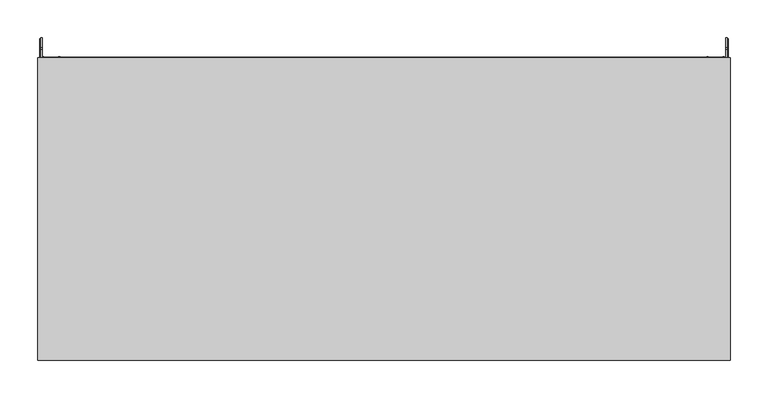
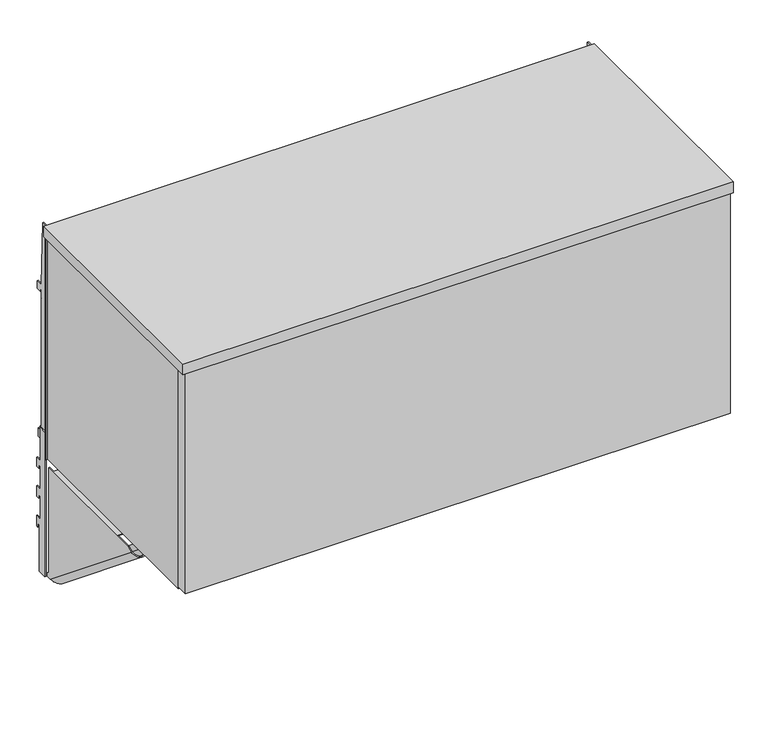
"""IFC4 building model written with IfcOpenShell, lengths in millimetres: furniture geometry, Steelcase - Universal Storage - In the Case Bin - Flat Front : For Montage - 36W."""

from ifc_helpers import new_model, si_unit, point, frame, frame_2d, origin, place, context, project, spatial, polyline, circle_curve, ellipse_curve, trimmed, segment, composite_curve, outline, extrude, faceted_brep, source, transform, mapped, element, save
from ifc_brep_helpers import plane_surface, cylinder_surface, revolved_surface, advanced_brep


def furniture_9f274bf5(model_context):
    return source(origin(), model_context, "Body", "SolidModel", [
        extrude(outline(polyline([(14.7026351, 1295.4127), (14.7026351, 1236.5862384), (24.9864881, 1236.5862384), (24.9864881, 1220.7113353), (18.8396885, 1220.7113353), (18.8396885, 1227.061311), (14.7756879, 1227.061311), (14.7756879, 1186.6498969), (24.9864881, 1186.6498969), (24.9864881, 1168.3872762), (18.8396885, 1168.3872762), (18.8396885, 1174.7373246), (14.7756879, 1174.7373246), (14.7756879, 1134.3259105), (24.9864881, 1134.3259105), (24.9864881, 1116.0632897), (21.4050888, 1116.0632897), (21.4050888, 1122.4132655), (17.3410881, 1122.4132655), (17.3410881, 1040.9809), (1.1327479, 1040.9809), (1.1327479, 1295.4127), (14.7026351, 1295.4127)])), frame((2.1844, 0.0, 0.0), z_axis=(1.0, 0.0, 0.0), x_axis=(0.0, 1.0, 0.0)), (0.0, 0.0, 1.0), 1.905),
        extrude(outline(polyline([(14.7026351, 1295.4127), (14.7026351, 1236.5862384), (24.9864881, 1236.5862384), (24.9864881, 1220.7113353), (18.8396885, 1220.7113353), (18.8396885, 1227.061311), (14.7756879, 1227.061311), (14.7756879, 1186.6498969), (24.9864881, 1186.6498969), (24.9864881, 1168.3872762), (18.8396885, 1168.3872762), (18.8396885, 1174.7373246), (14.7756879, 1174.7373246), (14.7756879, 1134.3259105), (24.9864881, 1134.3259105), (24.9864881, 1116.0632897), (21.4050888, 1116.0632897), (21.4050888, 1122.4132655), (17.3410881, 1122.4132655), (17.3410881, 1040.9809), (1.1327479, 1040.9809), (1.1327479, 1295.4127), (14.7026351, 1295.4127)])), frame((910.3106, 0.0, 0.0), z_axis=(1.0, 0.0, 0.0), x_axis=(0.0, 1.0, 0.0)), (0.0, 0.0, 1.0), 1.905),
        advanced_brep(
        [(885.3424, -230.0833372, 1233.8431), (885.3424, 1.1327479, 1046.6079738), (883.2342, 1.1327479, 1046.6079738), (883.2342, -230.0833372, 1233.8431), (883.2342, 1.1327479, 1040.9809), (883.2342, -7.7654502, 1040.9809), (883.2342, -240.6555763, 1229.5716381), (906.5006, -7.7654502, 1040.9809), (906.5006, -240.6555763, 1229.5716381), (906.5006, 1.1327479, 1040.9809), (906.5006, 1.1327479, 1046.6079738), (906.5006, -3.080512, 1050.019805), (906.5006, -3.080512, 1233.8431), (906.5006, -230.0833372, 1233.8431), (904.3924009, 1.1327479, 1046.6079738), (904.3924009, -3.080512, 1050.019805), (904.3924009, -7.7654502, 1040.9809), (904.3924009, -240.6555763, 1229.5716381), (904.3924009, -230.0833372, 1233.8431), (904.3924009, -200.311512, 1233.8431), (904.3924009, -200.311512, 1233.0049163), (904.3924009, -14.0787123, 1233.0049163), (904.3924009, -14.0787123, 1233.8431), (904.3924009, -3.080512, 1233.8431), (904.3924009, 1.1327479, 1040.9809), (885.3424, -7.7654502, 1040.9809), (885.3424, -240.6555763, 1229.5716381), (885.3424, 1.1327479, 1040.9809), (875.4617978, -200.311512, 1233.8431), (875.4617978, -200.311512, 1252.2581016), (874.6236, -200.311512, 1252.2581016), (874.6236, -200.311512, 1233.0049163), (874.6236, -82.5825138, 1252.2581016), (875.4617978, -82.5825138, 1252.2581016), (875.4617978, -82.5825138, 1233.8431), (874.6236, -82.5825138, 1233.8431), (874.6236, -14.0787123, 1233.8431), (874.6236, -14.0787123, 1233.0049163)],
        [
            (0, 1),
            (1, 2),
            (2, 3),
            (3, 0),
            (2, 4),
            (4, 5),
            (5, 6),
            (6, 3),
            (5, 7, ellipse_curve(frame((894.8674, -7.7654502, 1040.9809), z_axis=(0.0, 0.0, 1.0), x_axis=(0.0, -1.0, 0.0)), 18.4853359, 11.6332)),
            (7, 8),
            (8, 6, ellipse_curve(frame((894.8674, -240.6555763, 1229.5716381), z_axis=(0.0, 0.374606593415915, -0.9271838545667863), x_axis=(0.0, -0.9271838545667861, -0.3746065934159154)), 13.3008659, 11.6332)),
            (7, 9),
            (9, 10),
            (10, 11),
            (11, 12),
            (12, 13),
            (13, 8),
            (10, 14),
            (14, 15),
            (15, 11),
            (16, 17),
            (17, 18),
            (18, 19),
            (19, 20),
            (20, 21),
            (21, 22),
            (22, 23),
            (23, 15),
            (14, 24),
            (24, 16),
            (16, 25, ellipse_curve(frame((894.8674005, -7.7654502, 1040.9809), z_axis=(0.0, 0.0, -1.0), x_axis=(0.0, 1.0, 0.0)), 15.135374, 9.5250005)),
            (25, 26),
            (26, 17, ellipse_curve(frame((894.8674005, -240.6555763, 1229.5716381), z_axis=(0.0, -0.374606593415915, 0.9271838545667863), x_axis=(0.0, 0.9271838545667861, 0.3746065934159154)), 10.8904475, 9.5250005)),
            (0, 26),
            (25, 27),
            (27, 1),
            (13, 18),
            (24, 9),
            (4, 27),
            (28, 29),
            (29, 30),
            (30, 31),
            (31, 20),
            (19, 28),
            (32, 33),
            (33, 34),
            (34, 35),
            (35, 32),
            (35, 36),
            (36, 37),
            (37, 31),
            (30, 32),
            (28, 34),
            (33, 29),
            (36, 22),
            (21, 37),
            (12, 23),
        ],
        [
            plane_surface(frame((885.3424, -241.2702093, 1242.902052), z_axis=(0.0, 0.6293204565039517, 0.7771459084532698), x_axis=(0.0, 0.7771459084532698, -0.6293204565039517))),
            plane_surface(frame((883.2342, -241.2702093, 1242.902052), z_axis=(-1.0000000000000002, 0.0, 0.0), x_axis=(0.0, 0.7771459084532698, -0.6293204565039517))),
            cylinder_surface(frame((894.8674, 5.728998, 1030.0533094), z_axis=(0.0, -0.7771459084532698, 0.6293204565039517), x_axis=(0.0, 0.6293204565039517, 0.7771459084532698)), 11.6332),
            plane_surface(frame((906.5006, -247.5463438, 1235.1516726), z_axis=(1.0000000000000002, 0.0, 0.0), x_axis=(0.0, 0.7771459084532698, -0.6293204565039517))),
            plane_surface(frame((906.5006, -241.2702093, 1242.902052), z_axis=(0.0, 0.6293204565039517, 0.7771459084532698), x_axis=(0.0, 0.7771459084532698, -0.6293204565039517))),
            plane_surface(frame((904.3924009, -241.2702093, 1242.902052), z_axis=(-1.0000000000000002, 0.0, 0.0), x_axis=(0.0, 0.7771459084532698, -0.6293204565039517))),
            revolved_surface(polyline([(894.8674005, 7.3699238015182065, 1040.980900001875), (894.8674005, -238.76446812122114, 1240.2966349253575)]), (894.8674005, 5.728998, 1030.0533094), (0.0, 0.7771459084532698, -0.6293204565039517)),
            plane_surface(frame((885.3424, -247.5463438, 1235.1516726), z_axis=(1.0000000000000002, 0.0, 0.0), x_axis=(0.0, 0.7771459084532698, -0.6293204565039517))),
            plane_surface(frame((914.4, -257.2236519, 1222.8777011), z_axis=(0.0, -0.374606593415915, 0.9271838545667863), x_axis=(-1.0, 0.0, 0.0))),
            plane_surface(frame((914.4, 1.1327479, 1040.9809), z_axis=(0.0, 0.0, -1.0), x_axis=(-1.0, 0.0, 0.0))),
            plane_surface(frame((914.4, 1.1327479, 1053.6809), z_axis=(0.0, 1.0, 0.0), x_axis=(-1.0, 0.0, 0.0))),
            plane_surface(frame((874.6236, -200.311512, 1252.2581016), z_axis=(0.0, -1.0, 0.0), x_axis=(0.0, 0.0, -1.0))),
            plane_surface(frame((874.6236, -82.5825138, 1252.2581016), z_axis=(0.0, 1.0, 0.0), x_axis=(0.0, 0.0, 1.0))),
            plane_surface(frame((874.6236, -200.311512, 1252.2581016), z_axis=(-1.0, 0.0, 0.0), x_axis=(0.0, 1.0, 0.0))),
            plane_surface(frame((875.4617978, -200.311512, 1233.8431), z_axis=(1.0, 0.0, 0.0), x_axis=(0.0, 1.0, 0.0))),
            plane_surface(frame((875.4617978, -200.311512, 1252.2581016), z_axis=(0.0, 0.0, 1.0), x_axis=(0.0, 1.0, 0.0))),
            plane_surface(frame((874.6236, -14.0787123, 1233.8431), z_axis=(0.0, 1.0, 0.0), x_axis=(0.0, 0.0, 1.0))),
            plane_surface(frame((874.6236, -200.311512, 1233.0049163), z_axis=(0.0, 0.0, -1.0), x_axis=(0.0, 1.0, 0.0))),
            plane_surface(frame((906.5006, -200.311512, 1233.8431), z_axis=(0.0, 0.0, 1.0), x_axis=(0.0, 1.0, 0.0))),
            plane_surface(frame((906.5006, -3.080512, 1050.019805), z_axis=(0.0, 1.0, 0.0), x_axis=(-1.0, 0.0, 0.0))),
        ],
        [
            (0, [[1, 2, 3, 4]]),
            (1, [[-3, 5, 6, 7, 8]]),
            (2, [[-7, 9, 10, 11]]),
            (3, [[-10, 12, 13, 14, 15, 16, 17]]),
            (4, [[18, 19, 20, -14]]),
            (5, [[21, 22, 23, 24, 25, 26, 27, 28, -19, 29, 30]]),
            (6, [[-21, 31, 32, 33]]),
            (7, [[-1, 34, -32, 35, 36]]),
            (8, [[-4, -8, -11, -17, 37, -22, -33, -34]]),
            (9, [[38, -12, -9, -6, 39, -35, -31, -30]]),
            (10, [[-38, -29, -18, -13]]),
            (10, [[-39, -5, -2, -36]]),
            (11, [[40, 41, 42, 43, -24, 44]]),
            (12, [[45, 46, 47, 48]]),
            (13, [[-48, 49, 50, 51, -42, 52]]),
            (14, [[-40, 53, -46, 54]]),
            (15, [[-41, -54, -45, -52]]),
            (16, [[-50, 55, -26, 56]]),
            (17, [[-51, -56, -25, -43]]),
            (18, [[57, -27, -55, -49, -47, -53, -44, -23, -37, -16]]),
            (19, [[-15, -20, -28, -57]]),
        ],
    ),
        advanced_brep(
        [(8.1026, -3.080512, 1050.019805), (8.1026, -3.080512, 1233.8431), (8.1026, -14.0787123, 1233.8431), (8.1026, -14.0787123, 1233.0049163), (8.1026, -200.311512, 1233.0049163), (8.1026, -200.311512, 1233.8431), (8.1026, -230.0833372, 1233.8431), (8.1026, -240.6555763, 1229.5716381), (8.1026, -7.7654502, 1040.9809), (8.1026, 1.1327479, 1040.9809), (8.1026, 1.1327479, 1046.6079738), (5.9944, -3.080512, 1233.8431), (5.9944, -3.080512, 1050.019805), (5.9944, 1.1327479, 1046.6079738), (5.9944, 1.1327479, 1040.9809), (5.9944, -7.7654502, 1040.9809), (5.9944, -240.6555763, 1229.5716381), (5.9944, -230.0833372, 1233.8431), (39.5732022, -200.311512, 1233.8431), (39.5732022, -82.5825138, 1233.8431), (40.4114, -82.5825138, 1233.8431), (40.4114, -14.0787123, 1233.8431), (29.2608, -7.7654502, 1040.9809), (29.2608, -240.6555763, 1229.5716381), (29.2608, 1.1327479, 1040.9809), (29.2608, 1.1327479, 1046.6079738), (29.2608, -230.0833372, 1233.8431), (27.1526009, 1.1327479, 1046.6079738), (27.1526009, -230.0833372, 1233.8431), (27.1526009, 1.1327479, 1040.9809), (27.1526009, -7.7654502, 1040.9809), (27.1526009, -240.6555763, 1229.5716381), (40.4114, -200.311512, 1233.0049163), (40.4114, -200.311512, 1252.2581016), (39.5732022, -200.311512, 1252.2581016), (40.4114, -14.0787123, 1233.0049163), (40.4114, -82.5825138, 1252.2581016), (39.5732022, -82.5825138, 1252.2581016)],
        [
            (0, 1),
            (1, 2),
            (2, 3),
            (3, 4),
            (4, 5),
            (5, 6),
            (6, 7),
            (7, 8),
            (8, 9),
            (9, 10),
            (10, 0),
            (11, 12),
            (12, 13),
            (13, 14),
            (14, 15),
            (15, 16),
            (16, 17),
            (17, 11),
            (17, 6),
            (5, 18),
            (18, 19),
            (19, 20),
            (20, 21),
            (21, 2),
            (1, 11),
            (0, 12),
            (10, 13),
            (15, 22, ellipse_curve(frame((17.6276, -7.7654502, 1040.9809), z_axis=(0.0, 0.0, 1.0), x_axis=(0.0, -1.0, 0.0)), 18.4853359, 11.6332)),
            (22, 23),
            (23, 16, ellipse_curve(frame((17.6276, -240.6555763, 1229.5716381), z_axis=(0.0, 0.374606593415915, -0.9271838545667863), x_axis=(0.0, -0.9271838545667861, -0.3746065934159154)), 13.3008659, 11.6332)),
            (22, 24),
            (24, 25),
            (25, 26),
            (26, 23),
            (25, 27),
            (27, 28),
            (28, 26),
            (27, 29),
            (29, 30),
            (30, 31),
            (31, 28),
            (7, 31, ellipse_curve(frame((17.6276005, -240.6555763, 1229.5716381), z_axis=(0.0, -0.374606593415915, 0.9271838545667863), x_axis=(0.0, 0.9271838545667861, 0.3746065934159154)), 10.8904475, 9.5250005)),
            (30, 8, ellipse_curve(frame((17.6276005, -7.7654502, 1040.9809), z_axis=(0.0, 0.0, -1.0), x_axis=(0.0, 1.0, 0.0)), 15.135374, 9.5250005)),
            (14, 9),
            (29, 24),
            (4, 32),
            (32, 33),
            (33, 34),
            (34, 18),
            (21, 35),
            (35, 3),
            (35, 32),
            (20, 36),
            (36, 33),
            (19, 37),
            (37, 36),
            (37, 34),
        ],
        [
            plane_surface(frame((8.1026, -230.0833372, 1233.8431), z_axis=(1.0, 0.0, 0.0), x_axis=(0.0, -1.0, 0.0))),
            plane_surface(frame((5.9944, -230.0833372, 1233.8431), z_axis=(-1.0, 0.0, 0.0), x_axis=(0.0, 1.0, 0.0))),
            plane_surface(frame((8.1026, -3.080512, 1233.8431), z_axis=(0.0, 0.0, 1.0), x_axis=(-1.0, 0.0, 0.0))),
            plane_surface(frame((8.1026, -3.080512, 1050.019805), z_axis=(0.0, 1.0, 0.0), x_axis=(-1.0, 0.0, 0.0))),
            plane_surface(frame((8.1026, -241.2702093, 1242.902052), z_axis=(0.0, 0.6293204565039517, 0.7771459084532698), x_axis=(0.0, 0.7771459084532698, -0.6293204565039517))),
            cylinder_surface(frame((17.6276, 5.728998, 1030.0533094), z_axis=(0.0, -0.7771459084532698, 0.6293204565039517), x_axis=(1.0, 0.0, 0.0)), 11.6332),
            plane_surface(frame((29.2608, -247.5463438, 1235.1516726), z_axis=(1.0000000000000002, 0.0, 0.0), x_axis=(0.0, 0.7771459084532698, -0.6293204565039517))),
            plane_surface(frame((29.2608, -241.2702093, 1242.902052), z_axis=(0.0, 0.6293204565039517, 0.7771459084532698), x_axis=(0.0, 0.7771459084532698, -0.6293204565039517))),
            plane_surface(frame((27.1526009, -241.2702093, 1242.902052), z_axis=(-1.0000000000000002, 0.0, 0.0), x_axis=(0.0, 0.7771459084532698, -0.6293204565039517))),
            revolved_surface(polyline([(27.152601, 1.375646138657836, 1033.5785848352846), (27.152601, -244.75874578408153, 1232.8943197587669)]), (17.6276005, 5.728998, 1030.0533094), (0.0, 0.7771459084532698, -0.6293204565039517)),
            plane_surface(frame((914.4, -257.2236519, 1222.8777011), z_axis=(0.0, -0.374606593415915, 0.9271838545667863), x_axis=(-1.0, 0.0, 0.0))),
            plane_surface(frame((914.4, 1.1327479, 1040.9809), z_axis=(0.0, 0.0, -1.0), x_axis=(-1.0, 0.0, 0.0))),
            plane_surface(frame((914.4, 1.1327479, 1053.6809), z_axis=(0.0, 1.0, 0.0), x_axis=(-1.0, 0.0, 0.0))),
            plane_surface(frame((10.5986151, -200.311512, 1233.8431), z_axis=(0.0, -1.0, 0.0), x_axis=(-1.0, 0.0, 0.0))),
            plane_surface(frame((10.5986151, -14.0787123, 1233.8431), z_axis=(0.0, 1.0, 0.0), x_axis=(1.0, 0.0, 0.0))),
            plane_surface(frame((8.1026, -200.311512, 1233.0049163), z_axis=(0.0, 0.0, -1.0), x_axis=(0.0, 1.0, 0.0))),
            plane_surface(frame((40.4114, -200.311512, 1233.0049163), z_axis=(1.0, 0.0, 0.0), x_axis=(0.0, 1.0, 0.0))),
            plane_surface(frame((38.1509305, -82.5825138, 1252.2581016), z_axis=(0.0, 1.0, 0.0), x_axis=(1.0, 0.0, 0.0))),
            plane_surface(frame((40.4114, -200.311512, 1252.2581016), z_axis=(0.0, 0.0, 1.0), x_axis=(0.0, 1.0, 0.0))),
            plane_surface(frame((39.5732022, -200.311512, 1252.2581016), z_axis=(-1.0, 0.0, 0.0), x_axis=(0.0, 1.0, 0.0))),
        ],
        [
            (0, [[1, 2, 3, 4, 5, 6, 7, 8, 9, 10, 11]]),
            (1, [[12, 13, 14, 15, 16, 17, 18]]),
            (2, [[-18, 19, -6, 20, 21, 22, 23, 24, -2, 25]]),
            (3, [[-1, 26, -12, -25]]),
            (4, [[-26, -11, 27, -13]]),
            (5, [[-16, 28, 29, 30]]),
            (6, [[-29, 31, 32, 33, 34]]),
            (7, [[-33, 35, 36, 37]]),
            (8, [[-36, 38, 39, 40, 41]]),
            (9, [[-8, 42, -40, 43]]),
            (10, [[-7, -19, -17, -30, -34, -37, -41, -42]]),
            (11, [[44, -9, -43, -39, 45, -31, -28, -15]]),
            (12, [[-44, -14, -27, -10]]),
            (12, [[-45, -38, -35, -32]]),
            (13, [[46, 47, 48, 49, -20, -5]]),
            (14, [[50, 51, -3, -24]]),
            (15, [[-46, -4, -51, 52]]),
            (16, [[-47, -52, -50, -23, 53, 54]]),
            (17, [[-53, -22, 55, 56]]),
            (18, [[-48, -54, -56, 57]]),
            (19, [[-49, -57, -55, -21]]),
        ],
    ),
        faceted_brep([(895.4516023, -9.7789998, 1640.3955), (895.4516023, -9.7789998, 1652.2572326), (895.4516023, -10.6172003, 1652.2572326), (895.4516023, -10.6172003, 1639.557281), (895.4516023, -0.8382, 1639.557281), (895.4516023, -0.8382266, 1640.3955), (17.0434001, -9.7789998, 1640.3955), (17.0434001, -0.8382, 1640.3955), (17.0434001, -0.8382011, 1639.557281), (17.0434001, -10.6172003, 1639.557281), (17.0434001, -10.6172003, 1652.2572326), (17.0434001, -9.7789998, 1652.2572326), (898.0837557, -30.9238769, 1640.3955), (898.9187599, -30.850824, 1640.3955), (896.2930117, -0.8382, 1640.3955), (910.3106, -0.8382, 1640.3955), (910.3106, 0.1784978, 1640.3955), (2.1844, 0.1784978, 1640.3955), (2.1844, -0.8382, 1640.3955), (16.2019988, -0.8382, 1640.3955), (13.5762335, -30.850824, 1640.3955), (14.4176356, -30.850824, 1640.3955), (910.3106, 0.1784978, 1247.9655), (910.3106, -0.8382, 1247.9655), (896.2930117, -0.8382, 1247.9655), (898.9187599, -30.850824, 1247.9655), (898.0837557, -30.9238769, 1247.9655), (895.4516, -0.8382, 1247.9655), (17.0434002, -0.8382, 1247.9655), (14.4176356, -30.850824, 1247.9655), (13.5762335, -30.850824, 1247.9655), (16.2019988, -0.8382, 1247.9655), (2.1844, -0.8382, 1247.9655), (2.1844, 0.1784978, 1247.9655)], [[[0, 1, 2, 3, 4, 5]], [[6, 7, 8, 9, 10, 11]], [[1, 0, 6, 11]], [[2, 1, 11, 10]], [[3, 2, 10, 9]], [[4, 3, 9, 8]], [[0, 5, 12, 13, 14, 15, 16, 17, 18, 19, 20, 21, 7, 6]], [[22, 23, 24, 25, 26, 27, 28, 29, 30, 31, 32, 33]], [[17, 16, 22, 33]], [[18, 17, 33, 32]], [[19, 18, 32, 31]], [[20, 19, 31, 30]], [[21, 20, 30, 29]], [[7, 21, 29, 28, 8]], [[28, 27, 4, 8]], [[12, 5, 4, 27, 26]], [[13, 12, 26, 25]], [[14, 13, 25, 24]], [[15, 14, 24, 23]], [[16, 15, 23, 22]]]),
        faceted_brep([(878.9415999, -61.4680004, 1256.4236903), (878.9415999, -61.4680004, 1248.8037), (878.9415999, -60.6298021, 1248.8037), (878.9415999, -60.6298021, 1256.4236903), (33.5534002, -61.4680004, 1256.4236903), (33.5534002, -60.6298021, 1256.4236903), (33.5534002, -60.6298021, 1248.8037), (33.5534002, -61.468, 1248.8037), (17.0434001, -61.4680004, 1248.8037), (17.0434001, -61.4680004, 1247.9655), (895.4516023, -61.4680004, 1247.9655), (895.4516023, -61.4680004, 1248.8037), (895.4516023, -0.8382, 1247.9655), (895.4516023, -0.8382, 1248.8037), (17.0434001, -0.8382, 1248.8037), (17.0434001, -0.8382, 1247.9655)], [[[0, 1, 2, 3]], [[4, 5, 6, 7]], [[1, 0, 4, 7, 8, 9, 10, 11]], [[3, 2, 6, 5]], [[0, 3, 5, 4]], [[11, 10, 12, 13]], [[8, 14, 15, 9]], [[12, 10, 9, 15]], [[13, 12, 15, 14]], [[11, 13, 14, 8, 7, 6, 2, 1]]]),
        extrude(outline(composite_curve([segment(polyline([(-343.4401318, 1291.8437595), (-377.213238, 1291.8437595), (-377.213238, 1639.09375), (-30.850824, 1639.09375), (-30.850824, 1638.0577444), (-372.9486617, 1638.0577444)]), True, "CONTINUOUS"), segment(trimmed(circle_curve(frame_2d((-372.9486617, 1635.1839261)), 2.8738183), [point((-372.9486617, 1638.0577444))], [point((-375.82248, 1635.1839261))], True, "CARTESIAN"), True, "CONTINUOUS"), segment(polyline([(-375.82248, 1635.1839261), (-375.82248, 1292.9867129), (-343.4401318, 1292.9867129), (-343.4401318, 1291.8437595)]), True, "CONTINUOUS")], self_intersect=False)), frame((448.9266311, 0.0, 0.0), z_axis=(1.0, 0.0, 0.0), x_axis=(0.0, 1.0, 0.0)), (0.0, 0.0, 1.0), 16.5467378),
        extrude(outline(polyline([(914.4, -399.4977324), (0.0, -399.4977324), (0.0, 0.0), (914.4, 0.0), (914.4, -399.4977324)])), frame((0.0, 0.0, 1639.490625), z_axis=(0.0, 0.0, 1.0), x_axis=(1.0, 0.0, 0.0)), (0.0, 0.0, 1.0), 19.05),
        extrude(outline(polyline([(4.4448587, -378.8585852), (909.9703, -378.8585852), (909.9703, -399.0261526), (4.4448587, -399.0261526), (4.4448587, -378.8585852)])), frame((0.0, 0.0, 1253.2134107), z_axis=(0.0, 0.0, 1.0), x_axis=(1.0, 0.0, 0.0)), (0.0, 0.0, 1.0), 386.3690475),
        extrude(outline(polyline([(0.0, 1657.096), (10.1677703, 1657.096), (13.3857995, 1545.8185744), (26.0095997, 1545.8185744), (26.0095997, 1532.1025512), (17.5768, 1532.1025512), (17.5768, 1537.1064608), (13.3349998, 1537.1064608), (13.3349998, 1522.6538546), (14.2747998, 1522.6538546), (14.2747998, 1296.0858527), (17.2466001, 1296.0858527), (17.2466001, 1289.7358043), (22.5806007, 1289.7358043), (22.5806007, 1274.2164027), (0.0, 1274.2164027), (0.0, 1657.096)])), frame((908.8882, 0.0, 0.0), z_axis=(1.0, 0.0, 0.0), x_axis=(0.0, 1.0, 0.0)), (0.0, 0.0, 1.0), 1.905),
        extrude(outline(polyline([(15.875, -377.213238), (5.5118, -377.213238), (5.5118, 0.0), (15.875, 0.0), (15.875, -377.213238)])), frame((0.0, 0.0, 1247.9655), z_axis=(0.0, 0.0, 1.0), x_axis=(1.0, 0.0, 0.0)), (0.0, 0.0, 1.0), 391.2710707),
        extrude(outline(polyline([(913.2568665, -377.213238), (898.525, -377.213238), (898.525, 0.0), (913.2568665, 0.0), (913.2568665, -377.213238)])), frame((0.0, 0.0, 1247.9655), z_axis=(0.0, 0.0, 1.0), x_axis=(1.0, 0.0, 0.0)), (0.0, 0.0, 1.0), 391.2710707),
        extrude(outline(polyline([(0.0, 1657.096), (10.1677703, 1657.096), (13.3857995, 1545.8185744), (26.0095997, 1545.8185744), (26.0095997, 1532.1025512), (17.5768, 1532.1025512), (17.5768, 1537.1064608), (13.3349998, 1537.1064608), (13.3349998, 1522.6538546), (14.2747998, 1522.6538546), (14.2747998, 1296.0858527), (17.2466001, 1296.0858527), (17.2466001, 1289.7358043), (22.5806007, 1289.7358043), (22.5806007, 1274.2164027), (0.0, 1274.2164027), (0.0, 1657.096)])), frame((3.6068, 0.0, 0.0), z_axis=(1.0, 0.0, 0.0), x_axis=(0.0, 1.0, 0.0)), (0.0, 0.0, 1.0), 1.905),
        extrude(outline(polyline([(-35.4584098, 1372.819257), (-27.0763996, 1372.819257), (-27.0763996, 1360.1191601), (-33.4264117, 1360.1191601), (-33.4264117, 1323.1622589), (-27.0763996, 1323.1622589), (-27.0763996, 1265.428), (-35.4584098, 1265.428), (-35.4584098, 1293.054213), (-46.1263996, 1293.054213), (-46.1263996, 1268.1875622), (-59.9694137, 1268.1875622), (-59.9694137, 1294.8575912), (-332.8542818, 1294.8575912), (-332.8542818, 1268.1875622), (-377.3042823, 1268.1875622), (-377.3042823, 1310.7072052), (-35.4584098, 1310.7072052), (-35.4584098, 1372.819257)])), frame((15.875, 0.0, 0.0), z_axis=(1.0, 0.0, 0.0), x_axis=(0.0, 1.0, 0.0)), (0.0, 0.0, 1.0), 882.65),
    ])


if __name__ == "__main__":
    model = new_model("IFC4")
    model_context = context("Model", 3, world=origin())
    ifc_project = project(units=[si_unit("LENGTHUNIT", "METRE", prefix="MILLI")], contexts=[model_context])
    site = spatial("IfcSite", under=ifc_project)
    building = spatial("IfcBuilding", under=site)
    placement = place(None, origin())
    furniture_shape = furniture_9f274bf5(model_context)
    element("IfcFurniture", 1, ObjectType="Steelcase - Universal Storage - In the Case Bin - Flat Front : For Montage - 36W", at=placement, inside=building, context=model_context, shape_type="MappedRepresentation", body=[
        mapped(furniture_shape, transform((0.0, 0.0, 0.0), x_axis=(1.0, 0.0, 0.0), y_axis=(0.0, 1.0, 0.0), z_axis=(0.0, 0.0, 1.0))),
    ])
    save(model, "model.ifc")
